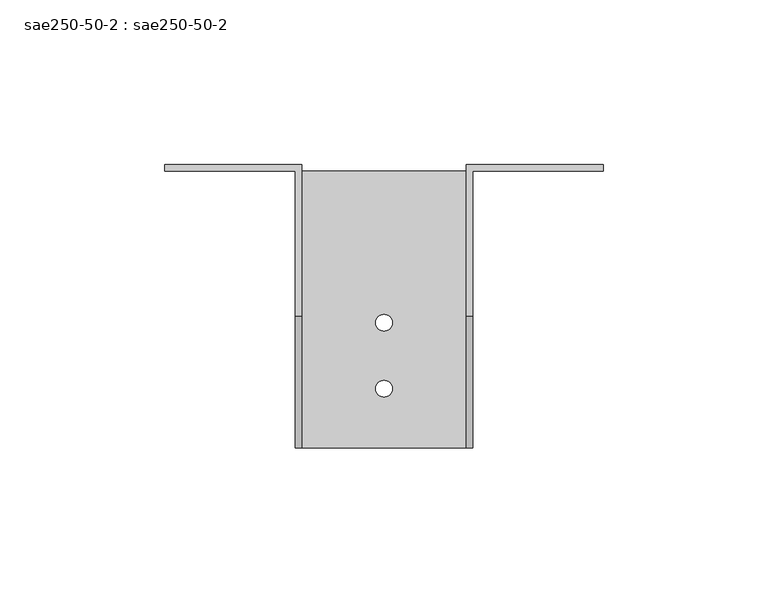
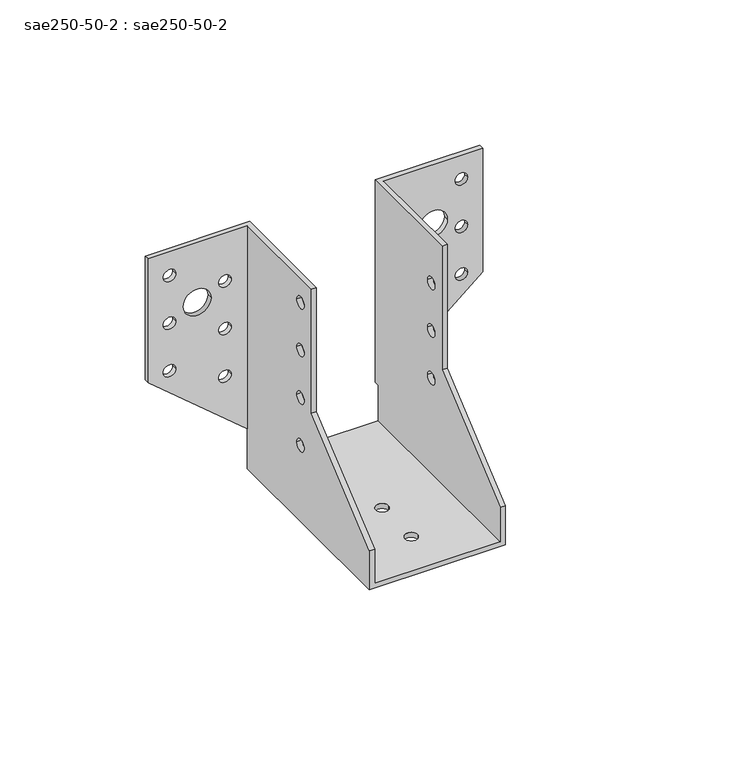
"""IFC4 building model written with IfcOpenShell, lengths in millimetres: fastener geometry, sae250-50-2 : sae250-50-2."""

import ifcopenshell
import ifcopenshell.guid

model = None  # the IFC model being written
_history = None  # IfcOwnerHistory: only IFC2X3 demands one
_inside = {}  # id of a spatial element -> (the spatial element, [elements in it])
_under = {}  # id of a project, library or spatial element -> (it, [spatial elements below it])
_declared = {}  # id of a project -> (the project, [libraries it declares])
_typed = {}  # id of a type object -> (the type object, [elements of that type])
_made_of = {}  # id of a material, layer set ... -> (it, [elements and type objects made of it])


def new_model(schema):
    """Start an empty IFC model of exactly this schema.

    Asked for "IFC4X3", IfcOpenShell would pick the latest addendum, in which some entities
    have other attributes; the version numbers below select the first issue.
    IFC2X3 requires an IfcOwnerHistory on every rooted entity: one is made here for all.
    """
    global model, _history
    if schema == "IFC4X3":
        model = ifcopenshell.file(schema_version=(4, 3, 0, 0))
    else:
        model = ifcopenshell.file(schema=schema)
    _inside.clear()
    _under.clear()
    _declared.clear()
    _typed.clear()
    _made_of.clear()
    _history = None
    if model.schema == "IFC2X3":
        org = make("IfcOrganization", Name="unknown")
        user = make(
            "IfcPersonAndOrganization",
            ThePerson=make("IfcPerson", FamilyName="unknown"),
            TheOrganization=org,
        )
        app = make(
            "IfcApplication",
            ApplicationDeveloper=org,
            Version="unknown",
            ApplicationFullName="unknown",
            ApplicationIdentifier="unknown",
        )
        _history = make(
            "IfcOwnerHistory",
            OwningUser=user,
            OwningApplication=app,
            ChangeAction="ADDED",
            CreationDate=0,
        )
    return model


def make(cls, **values):
    """One entity of the class cls with the attributes given. An attribute that is None is left unset."""
    return model.create_entity(
        cls, **{name: value for name, value in values.items() if value is not None}
    )


def rooted(cls, **values):
    """An entity with a GlobalId (a new one), such as an element, a storey or a relation."""
    return make(cls, GlobalId=ifcopenshell.guid.new(), OwnerHistory=_history, **values)


def si_unit(unit_type, name, prefix=None):
    """IfcSIUnit, for example si_unit("LENGTHUNIT", "METRE", prefix="MILLI")."""
    return make("IfcSIUnit", UnitType=unit_type, Prefix=prefix, Name=name)


def assignment(units):
    """IfcUnitAssignment: the units of a project."""
    return None if units is None else make("IfcUnitAssignment", Units=units)


def point(xyz):
    """IfcCartesianPoint."""
    return None if xyz is None else make("IfcCartesianPoint", Coordinates=xyz)


def direction(xyz):
    """IfcDirection."""
    return None if xyz is None else make("IfcDirection", DirectionRatios=xyz)


def frame(location, z_axis=None, x_axis=None):
    """IfcAxis2Placement3D, a coordinate frame: its origin and axes. An axis left out is left unset."""
    return make(
        "IfcAxis2Placement3D",
        Location=point(location),
        Axis=direction(z_axis),
        RefDirection=direction(x_axis),
    )


def origin():
    """The frame at (0, 0, 0) with its axes left unset."""
    return frame((0.0, 0.0, 0.0))


def place(relative_to, where):
    """IfcLocalPlacement: puts the frame where relative to a parent placement (None: the world)."""
    return make(
        "IfcLocalPlacement", PlacementRelTo=relative_to, RelativePlacement=where
    )


def context(
    kind, dimensions, precision=None, world=None, true_north=None, identifier=None
):
    """IfcGeometricRepresentationContext, for example the 3D "Model" context."""
    return make(
        "IfcGeometricRepresentationContext",
        ContextIdentifier=identifier,
        ContextType=kind,
        CoordinateSpaceDimension=dimensions,
        Precision=precision,
        WorldCoordinateSystem=world,
        TrueNorth=true_north,
    )


def project(units=None, contexts=None):
    """IfcProject with its units and contexts."""
    return rooted(
        "IfcProject",
        Name="project",
        RepresentationContexts=contexts,
        UnitsInContext=assignment(units),
    )


def spatial(cls, under=None, at=None, **own):
    """A site, building, storey or space (cls), placed at a placement, below another one or the project."""
    s = rooted(cls, ObjectPlacement=at, **own)
    if under is not None:
        _under.setdefault(under.id(), (under, []))[1].append(s)
    return s


def polyline(points):
    """IfcPolyline through the points."""
    return make("IfcPolyline", Points=[point(p) for p in points])


def circle_curve(where, radius):
    """IfcCircle in the frame where."""
    return make("IfcCircle", Position=where, Radius=radius)


def shape(context_of_items, identifier, shape_type, items):
    """IfcShapeRepresentation: the items that make up one representation, for example the "Body"."""
    return make(
        "IfcShapeRepresentation",
        ContextOfItems=context_of_items,
        RepresentationIdentifier=identifier,
        RepresentationType=shape_type,
        Items=items,
    )


def source(mapping_origin, context_of_items, identifier, shape_type, items):
    """IfcRepresentationMap: a shape defined once, which mapped items show again and again."""
    return make(
        "IfcRepresentationMap",
        MappingOrigin=mapping_origin,
        MappedRepresentation=shape(context_of_items, identifier, shape_type, items),
    )


def transform(
    local_origin,
    x_axis=None,
    y_axis=None,
    z_axis=None,
    scale=None,
    scale2=None,
    scale3=None,
    uniform=True,
):
    """IfcCartesianTransformationOperator3D, or its non-uniform kind. x_axis, y_axis, z_axis: its Axis1, 2, 3."""
    if uniform:
        return make(
            "IfcCartesianTransformationOperator3D",
            Axis1=direction(x_axis),
            Axis2=direction(y_axis),
            LocalOrigin=point(local_origin),
            Scale=scale,
            Axis3=direction(z_axis),
        )
    return make(
        "IfcCartesianTransformationOperator3DnonUniform",
        Axis1=direction(x_axis),
        Axis2=direction(y_axis),
        LocalOrigin=point(local_origin),
        Scale=scale,
        Axis3=direction(z_axis),
        Scale2=scale2,
        Scale3=scale3,
    )


def mapped(mapping_source, mapping_target):
    """IfcMappedItem: shows the shape of a source again, moved by a transform."""
    return make(
        "IfcMappedItem", MappingSource=mapping_source, MappingTarget=mapping_target
    )


def made_of(thing, what):
    """Note that an element or type object is made of a material, layer set ...; save() writes the relation."""
    if what is not None:
        _made_of.setdefault(what.id(), (what, []))[1].append(thing)
    return thing


def element(
    cls,
    number,
    at=None,
    inside=None,
    cuts=None,
    type_object=None,
    material=None,
    context=None,
    identifier="Body",
    shape_type=None,
    held_by="IfcProductDefinitionShape",
    body=None,
    shapes=None,
    **own,
):
    """One element of the class cls, such as IfcWall. Its Tag is "e" and its number.

    at: its placement. inside: the storey or other place that contains it. cuts: it is an
    opening in that element (IfcRelVoidsElement). A single representation is given by context,
    identifier, shape_type and body (its items); several are given by shapes. held_by: the class
    of the entity that holds the representations. save() writes the other relations.
    """
    e = rooted(cls, Tag="e%d" % number, ObjectPlacement=at, **own)
    if body is not None:
        shapes = [shape(context, identifier, shape_type, body)]
    if shapes is not None:
        e.Representation = make(held_by, Representations=shapes)
    if inside is not None:
        _inside.setdefault(inside.id(), (inside, []))[1].append(e)
    if cuts is not None:
        rooted(
            "IfcRelVoidsElement", RelatingBuildingElement=cuts, RelatedOpeningElement=e
        )
    if type_object is not None:
        _typed.setdefault(type_object.id(), (type_object, []))[1].append(e)
    return made_of(e, material)


def aggregate(whole, parts):
    """IfcRelAggregates: a whole, such as a stair, and the parts it consists of."""
    return rooted("IfcRelAggregates", RelatingObject=whole, RelatedObjects=parts)


def save(model, path):
    """Write the relations noted so far, then the file.

    IfcRelAggregates (storeys below a building ...), IfcRelContainedInSpatialStructure (elements
    in a storey), IfcRelDefinesByType, IfcRelAssociatesMaterial and IfcRelDeclares: one each for
    every whole, place, type object, material and project.
    """
    for whole, parts in _under.values():
        aggregate(whole, parts)
    for where, things in _inside.values():
        rooted(
            "IfcRelContainedInSpatialStructure",
            RelatedElements=things,
            RelatingStructure=where,
        )
    for kind, things in _typed.values():
        rooted("IfcRelDefinesByType", RelatedObjects=things, RelatingType=kind)
    for what, things in _made_of.values():
        rooted("IfcRelAssociatesMaterial", RelatedObjects=things, RelatingMaterial=what)
    for by, libraries in _declared.values():
        rooted("IfcRelDeclares", RelatingContext=by, RelatedDefinitions=libraries)
    model.write(path)


def plane_surface(at):
    """IfcPlane: the flat surface through the origin of the frame at, square to its z axis."""
    return make("IfcPlane", Position=at)


def revolved_surface(curve, axis_point, axis_direction):
    """IfcSurfaceOfRevolution: the curve turned about the line through axis_point along axis_direction."""
    return make(
        "IfcSurfaceOfRevolution",
        SweptCurve=make("IfcArbitraryOpenProfileDef", ProfileType="CURVE", Curve=curve),
        AxisPosition=make("IfcAxis1Placement", Location=point(axis_point), Axis=direction(axis_direction)),
    )


def advanced_brep(points, edges, surfaces, faces):
    """IfcAdvancedBrep: a solid bounded by faces that lie on surfaces and meet in shared edges.

    An edge is (start, end): straight between two places in points (the first is 0);
    or (start, end, curve); or (start, end, curve, False) where it runs against its curve.
    A face is (place in surfaces, loops), or (place, loops, False) where it looks against
    its surface's normal. A loop lists edges by number (the first is 1), with a minus sign
    where the edge is run from its end to its start. The first loop is the outer one.
    """
    corners = [point(p) for p in points]
    vertices = [make("IfcVertexPoint", VertexGeometry=c) for c in corners]
    made = []
    for start, end, *more in edges:
        made.append(
            make(
                "IfcEdgeCurve",
                EdgeStart=vertices[start],
                EdgeEnd=vertices[end],
                EdgeGeometry=more[0] if more else make("IfcPolyline", Points=[corners[start], corners[end]]),
                SameSense=more[1] if len(more) > 1 else True,
            )
        )
    hull = []
    for where, loops, *sense in faces:
        bounds = []
        for j, loop in enumerate(loops):
            ring = [make("IfcOrientedEdge", EdgeElement=made[abs(k) - 1], Orientation=k > 0) for k in loop]
            bounds.append(
                make(
                    "IfcFaceOuterBound" if j == 0 else "IfcFaceBound",
                    Bound=make("IfcEdgeLoop", EdgeList=ring),
                    Orientation=True,
                )
            )
        hull.append(make("IfcAdvancedFace", Bounds=bounds, FaceSurface=surfaces[where], SameSense=sense[0] if sense else True))
    return make("IfcAdvancedBrep", Outer=make("IfcClosedShell", CfsFaces=hull))


def sae250_50_2_sae250_50_2_05dc8403(model_context):
    return source(origin(), model_context, "Body", "AdvancedBrep", [
        advanced_brep(
        [(33.5, -2.0, 80.0), (33.5, 0.0, 80.0), (38.5, 0.0, 80.0), (38.5, -2.0, 80.0), (55.5, -2.0, 90.0), (55.5, 0.0, 90.0), (60.5, 0.0, 90.0), (60.5, -2.0, 90.0), (33.5, -2.0, 60.0), (33.5, 0.0, 60.0), (38.5, 0.0, 60.0), (38.5, -2.0, 60.0), (55.5, -2.0, 70.0), (55.5, 0.0, 70.0), (60.5, 0.0, 70.0), (60.5, -2.0, 70.0), (33.5, -2.0, 40.0), (33.5, 0.0, 40.0), (38.5, 0.0, 40.0), (38.5, -2.0, 40.0), (55.5, -2.0, 50.0), (55.5, 0.0, 50.0), (60.5, 0.0, 50.0), (60.5, -2.0, 50.0), (52.5, 0.0, 75.0), (52.5, -2.0, 75.0), (41.5, -2.0, 75.0), (41.5, 0.0, 75.0), (-33.5, -2.0, 80.0), (-33.5, 0.0, 80.0), (-38.5, 0.0, 80.0), (-38.5, -2.0, 80.0), (-55.5, -2.0, 90.0), (-55.5, 0.0, 90.0), (-60.5, 0.0, 90.0), (-60.5, -2.0, 90.0), (-33.5, -2.0, 60.0), (-33.5, 0.0, 60.0), (-38.5, 0.0, 60.0), (-38.5, -2.0, 60.0), (-55.5, -2.0, 70.0), (-55.5, 0.0, 70.0), (-60.5, 0.0, 70.0), (-60.5, -2.0, 70.0), (-33.5, -2.0, 40.0), (-33.5, 0.0, 40.0), (-38.5, 0.0, 40.0), (-38.5, -2.0, 40.0), (-55.5, -2.0, 50.0), (-55.5, 0.0, 50.0), (-60.5, 0.0, 50.0), (-60.5, -2.0, 50.0), (-52.5, 0.0, 75.0), (-52.5, -2.0, 75.0), (-41.5, -2.0, 75.0), (-41.5, 0.0, 75.0), (25.0, -36.0, 40.0), (27.0, -36.0, 40.0), (27.0, -41.0, 40.0), (25.0, -41.0, 40.0), (25.0, -36.0, 80.0), (27.0, -36.0, 80.0), (27.0, -41.0, 80.0), (25.0, -41.0, 80.0), (25.0, -36.0, 60.0), (27.0, -36.0, 60.0), (27.0, -41.0, 60.0), (25.0, -41.0, 60.0), (-25.0, -41.0, 90.0), (-27.0, -41.0, 90.0), (-27.0, -36.0, 90.0), (-25.0, -36.0, 90.0), (-25.0, -41.0, 70.0), (-27.0, -41.0, 70.0), (-27.0, -36.0, 70.0), (-25.0, -36.0, 70.0), (-25.0, -41.0, 50.0), (-27.0, -41.0, 50.0), (-27.0, -36.0, 50.0), (-25.0, -36.0, 50.0), (-25.0, -41.0, 30.0), (-27.0, -41.0, 30.0), (-27.0, -36.0, 30.0), (-25.0, -36.0, 30.0), (2.5, -68.0, -2.0), (2.5, -68.0, 0.0), (-2.5, -68.0, 0.0), (-2.5, -68.0, -2.0), (2.5, -48.0, -2.0), (2.5, -48.0, 0.0), (-2.5, -48.0, 0.0), (-2.5, -48.0, -2.0), (-25.0, -86.0, 0.0), (-25.0, -2.0, 0.0), (-25.0, -2.0, 14.8555646), (-25.0, 0.0, 14.8555646), (-25.0, 0.0, 100.0), (-25.0, -46.0, 100.0), (-25.0, -46.0, 48.0), (-25.0, -86.0, 14.4360148), (-27.0, -2.0, 14.8555646), (-27.0, -2.0, 100.0), (-66.5, -2.0, 100.0), (-66.5, -2.0, 48.0), (-66.5, 0.0, 100.0), (-66.5, 0.0, 48.0), (-27.0, 0.0, 14.8555646), (-27.0, -46.0, 48.0), (-27.0, -86.0, 14.4360148), (-27.0, -46.0, 100.0), (-27.0, -2.0, -2.0), (-27.0, -86.0, -2.0), (27.0, -2.0, 100.0), (27.0, -2.0, 14.8555646), (66.5, -2.0, 48.0), (66.5, -2.0, 100.0), (66.5, 0.0, 48.0), (66.5, 0.0, 100.0), (27.0, 0.0, 14.8555646), (25.0, 0.0, 14.8555646), (25.0, -2.0, 14.8555646), (25.0, 0.0, 100.0), (25.0, -2.0, 0.0), (25.0, -86.0, 0.0), (25.0, -86.0, 14.4360148), (25.0, -46.0, 48.0), (25.0, -46.0, 100.0), (27.0, -86.0, 14.4360148), (27.0, -46.0, 48.0), (27.0, -46.0, 100.0), (27.0, -2.0, -2.0), (27.0, -86.0, -2.0)],
        [
            (0, 1),
            (1, 2, circle_curve(frame((36.0, 0.0, 80.0), z_axis=(0.0, 1.0, 0.0), x_axis=(-1.0, 0.0, 0.0)), 2.5)),
            (2, 3),
            (3, 0, circle_curve(frame((36.0, -2.0, 80.0), z_axis=(0.0, -1.0, 0.0), x_axis=(-1.0, 0.0, 0.0)), 2.5)),
            (4, 5),
            (5, 6, circle_curve(frame((58.0, 0.0, 90.0), z_axis=(0.0, 1.0, 0.0), x_axis=(-1.0, 0.0, 0.0)), 2.5)),
            (6, 7),
            (7, 4, circle_curve(frame((58.0, -2.0, 90.0), z_axis=(0.0, -1.0, 0.0), x_axis=(-1.0, 0.0, 0.0)), 2.5)),
            (8, 9),
            (9, 10, circle_curve(frame((36.0, 0.0, 60.0), z_axis=(0.0, 1.0, 0.0), x_axis=(-1.0, 0.0, 0.0)), 2.5)),
            (10, 11),
            (11, 8, circle_curve(frame((36.0, -2.0, 60.0), z_axis=(0.0, -1.0, 0.0), x_axis=(-1.0, 0.0, 0.0)), 2.5)),
            (12, 13),
            (13, 14, circle_curve(frame((58.0, 0.0, 70.0), z_axis=(0.0, 1.0, 0.0), x_axis=(-1.0, 0.0, 0.0)), 2.5)),
            (14, 15),
            (15, 12, circle_curve(frame((58.0, -2.0, 70.0), z_axis=(0.0, -1.0, 0.0), x_axis=(-1.0, 0.0, 0.0)), 2.5)),
            (16, 17),
            (17, 18, circle_curve(frame((36.0, 0.0, 40.0), z_axis=(0.0, 1.0, 0.0), x_axis=(-1.0, 0.0, 0.0)), 2.5)),
            (18, 19),
            (19, 16, circle_curve(frame((36.0, -2.0, 40.0), z_axis=(0.0, -1.0, 0.0), x_axis=(-1.0, 0.0, 0.0)), 2.5)),
            (20, 21),
            (21, 22, circle_curve(frame((58.0, 0.0, 50.0), z_axis=(0.0, 1.0, 0.0), x_axis=(-1.0, 0.0, 0.0)), 2.5)),
            (22, 23),
            (23, 20, circle_curve(frame((58.0, -2.0, 50.0), z_axis=(0.0, -1.0, 0.0), x_axis=(-1.0, 0.0, 0.0)), 2.5)),
            (24, 25),
            (25, 26, circle_curve(frame((47.0, -2.0, 75.0), z_axis=(0.0, -1.0, 0.0), x_axis=(1.0, 0.0, 0.0)), 5.5)),
            (26, 27),
            (27, 24, circle_curve(frame((47.0, 0.0, 75.0), z_axis=(0.0, 1.0, 0.0), x_axis=(1.0, 0.0, 0.0)), 5.5)),
            (28, 29),
            (29, 30, circle_curve(frame((-36.0, 0.0, 80.0), z_axis=(0.0, 1.0, 0.0), x_axis=(1.0, 0.0, 0.0)), 2.5)),
            (30, 31),
            (31, 28, circle_curve(frame((-36.0, -2.0, 80.0), z_axis=(0.0, -1.0, 0.0), x_axis=(1.0, 0.0, 0.0)), 2.5)),
            (32, 33),
            (33, 34, circle_curve(frame((-58.0, 0.0, 90.0), z_axis=(0.0, 1.0, 0.0), x_axis=(1.0, 0.0, 0.0)), 2.5)),
            (34, 35),
            (35, 32, circle_curve(frame((-58.0, -2.0, 90.0), z_axis=(0.0, -1.0, 0.0), x_axis=(1.0, 0.0, 0.0)), 2.5)),
            (36, 37),
            (37, 38, circle_curve(frame((-36.0, 0.0, 60.0), z_axis=(0.0, 1.0, 0.0), x_axis=(1.0, 0.0, 0.0)), 2.5)),
            (38, 39),
            (39, 36, circle_curve(frame((-36.0, -2.0, 60.0), z_axis=(0.0, -1.0, 0.0), x_axis=(1.0, 0.0, 0.0)), 2.5)),
            (40, 41),
            (41, 42, circle_curve(frame((-58.0, 0.0, 70.0), z_axis=(0.0, 1.0, 0.0), x_axis=(1.0, 0.0, 0.0)), 2.5)),
            (42, 43),
            (43, 40, circle_curve(frame((-58.0, -2.0, 70.0), z_axis=(0.0, -1.0, 0.0), x_axis=(1.0, 0.0, 0.0)), 2.5)),
            (44, 45),
            (45, 46, circle_curve(frame((-36.0, 0.0, 40.0), z_axis=(0.0, 1.0, 0.0), x_axis=(1.0, 0.0, 0.0)), 2.5)),
            (46, 47),
            (47, 44, circle_curve(frame((-36.0, -2.0, 40.0), z_axis=(0.0, -1.0, 0.0), x_axis=(1.0, 0.0, 0.0)), 2.5)),
            (48, 49),
            (49, 50, circle_curve(frame((-58.0, 0.0, 50.0), z_axis=(0.0, 1.0, 0.0), x_axis=(1.0, 0.0, 0.0)), 2.5)),
            (50, 51),
            (51, 48, circle_curve(frame((-58.0, -2.0, 50.0), z_axis=(0.0, -1.0, 0.0), x_axis=(1.0, 0.0, 0.0)), 2.5)),
            (52, 53),
            (53, 54, circle_curve(frame((-47.0, -2.0, 75.0), z_axis=(0.0, -1.0, 0.0), x_axis=(-1.0, 0.0, 0.0)), 5.5)),
            (54, 55),
            (55, 52, circle_curve(frame((-47.0, 0.0, 75.0), z_axis=(0.0, 1.0, 0.0), x_axis=(-1.0, 0.0, 0.0)), 5.5)),
            (56, 57),
            (57, 58, circle_curve(frame((27.0, -38.5, 40.0), z_axis=(1.0, 0.0, 0.0), x_axis=(0.0, 1.0, 0.0)), 2.5)),
            (58, 59),
            (59, 56, circle_curve(frame((25.0, -38.5, 40.0), z_axis=(-1.0, 0.0, 0.0), x_axis=(0.0, 1.0, 0.0)), 2.5)),
            (60, 61),
            (61, 62, circle_curve(frame((27.0, -38.5, 80.0), z_axis=(1.0, 0.0, 0.0), x_axis=(0.0, 1.0, 0.0)), 2.5)),
            (62, 63),
            (63, 60, circle_curve(frame((25.0, -38.5, 80.0), z_axis=(-1.0, 0.0, 0.0), x_axis=(0.0, 1.0, 0.0)), 2.5)),
            (64, 65),
            (65, 66, circle_curve(frame((27.0, -38.5, 60.0), z_axis=(1.0, 0.0, 0.0), x_axis=(0.0, 1.0, 0.0)), 2.5)),
            (66, 67),
            (67, 64, circle_curve(frame((25.0, -38.5, 60.0), z_axis=(-1.0, 0.0, 0.0), x_axis=(0.0, 1.0, 0.0)), 2.5)),
            (68, 69),
            (69, 70, circle_curve(frame((-27.0, -38.5, 90.0), z_axis=(-1.0, 0.0, 0.0), x_axis=(0.0, -1.0, 0.0)), 2.5)),
            (70, 71),
            (71, 68, circle_curve(frame((-25.0, -38.5, 90.0), z_axis=(1.0, 0.0, 0.0), x_axis=(0.0, -1.0, 0.0)), 2.5)),
            (72, 73),
            (73, 74, circle_curve(frame((-27.0, -38.5, 70.0), z_axis=(-1.0, 0.0, 0.0), x_axis=(0.0, -1.0, 0.0)), 2.5)),
            (74, 75),
            (75, 72, circle_curve(frame((-25.0, -38.5, 70.0), z_axis=(1.0, 0.0, 0.0), x_axis=(0.0, -1.0, 0.0)), 2.5)),
            (76, 77),
            (77, 78, circle_curve(frame((-27.0, -38.5, 50.0), z_axis=(-1.0, 0.0, 0.0), x_axis=(0.0, -1.0, 0.0)), 2.5)),
            (78, 79),
            (79, 76, circle_curve(frame((-25.0, -38.5, 50.0), z_axis=(1.0, 0.0, 0.0), x_axis=(0.0, -1.0, 0.0)), 2.5)),
            (80, 81),
            (81, 82, circle_curve(frame((-27.0, -38.5, 30.0), z_axis=(-1.0, 0.0, 0.0), x_axis=(0.0, -1.0, 0.0)), 2.5)),
            (82, 83),
            (83, 80, circle_curve(frame((-25.0, -38.5, 30.0), z_axis=(1.0, 0.0, 0.0), x_axis=(0.0, -1.0, 0.0)), 2.5)),
            (84, 85),
            (85, 86, circle_curve(frame((0.0, -68.0, 0.0), z_axis=(0.0, 0.0, 1.0), x_axis=(1.0, 0.0, 0.0)), 2.5)),
            (86, 87),
            (87, 84, circle_curve(frame((0.0, -68.0, -2.0), z_axis=(0.0, 0.0, -1.0), x_axis=(1.0, 0.0, 0.0)), 2.5)),
            (88, 89),
            (89, 90, circle_curve(frame((0.0, -48.0, 0.0), z_axis=(0.0, 0.0, 1.0), x_axis=(1.0, 0.0, 0.0)), 2.5)),
            (90, 91),
            (91, 88, circle_curve(frame((0.0, -48.0, -2.0), z_axis=(0.0, 0.0, -1.0), x_axis=(1.0, 0.0, 0.0)), 2.5)),
            (88, 91, circle_curve(frame((0.0, -48.0, -2.0), z_axis=(0.0, 0.0, -1.0), x_axis=(1.0, 0.0, 0.0)), 2.5)),
            (90, 89, circle_curve(frame((0.0, -48.0, 0.0), z_axis=(0.0, 0.0, 1.0), x_axis=(1.0, 0.0, 0.0)), 2.5)),
            (84, 87, circle_curve(frame((0.0, -68.0, -2.0), z_axis=(0.0, 0.0, -1.0), x_axis=(1.0, 0.0, 0.0)), 2.5)),
            (86, 85, circle_curve(frame((0.0, -68.0, 0.0), z_axis=(0.0, 0.0, 1.0), x_axis=(1.0, 0.0, 0.0)), 2.5)),
            (80, 83, circle_curve(frame((-25.0, -38.5, 30.0), z_axis=(1.0, 0.0, 0.0), x_axis=(0.0, -1.0, 0.0)), 2.5)),
            (82, 81, circle_curve(frame((-27.0, -38.5, 30.0), z_axis=(-1.0, 0.0, 0.0), x_axis=(0.0, -1.0, 0.0)), 2.5)),
            (76, 79, circle_curve(frame((-25.0, -38.5, 50.0), z_axis=(1.0, 0.0, 0.0), x_axis=(0.0, -1.0, 0.0)), 2.5)),
            (78, 77, circle_curve(frame((-27.0, -38.5, 50.0), z_axis=(-1.0, 0.0, 0.0), x_axis=(0.0, -1.0, 0.0)), 2.5)),
            (72, 75, circle_curve(frame((-25.0, -38.5, 70.0), z_axis=(1.0, 0.0, 0.0), x_axis=(0.0, -1.0, 0.0)), 2.5)),
            (74, 73, circle_curve(frame((-27.0, -38.5, 70.0), z_axis=(-1.0, 0.0, 0.0), x_axis=(0.0, -1.0, 0.0)), 2.5)),
            (68, 71, circle_curve(frame((-25.0, -38.5, 90.0), z_axis=(1.0, 0.0, 0.0), x_axis=(0.0, -1.0, 0.0)), 2.5)),
            (70, 69, circle_curve(frame((-27.0, -38.5, 90.0), z_axis=(-1.0, 0.0, 0.0), x_axis=(0.0, -1.0, 0.0)), 2.5)),
            (64, 67, circle_curve(frame((25.0, -38.5, 60.0), z_axis=(-1.0, 0.0, 0.0), x_axis=(0.0, 1.0, 0.0)), 2.5)),
            (66, 65, circle_curve(frame((27.0, -38.5, 60.0), z_axis=(1.0, 0.0, 0.0), x_axis=(0.0, 1.0, 0.0)), 2.5)),
            (60, 63, circle_curve(frame((25.0, -38.5, 80.0), z_axis=(-1.0, 0.0, 0.0), x_axis=(0.0, 1.0, 0.0)), 2.5)),
            (62, 61, circle_curve(frame((27.0, -38.5, 80.0), z_axis=(1.0, 0.0, 0.0), x_axis=(0.0, 1.0, 0.0)), 2.5)),
            (56, 59, circle_curve(frame((25.0, -38.5, 40.0), z_axis=(-1.0, 0.0, 0.0), x_axis=(0.0, 1.0, 0.0)), 2.5)),
            (58, 57, circle_curve(frame((27.0, -38.5, 40.0), z_axis=(1.0, 0.0, 0.0), x_axis=(0.0, 1.0, 0.0)), 2.5)),
            (52, 55, circle_curve(frame((-47.0, 0.0, 75.0), z_axis=(0.0, 1.0, 0.0), x_axis=(-1.0, 0.0, 0.0)), 5.5)),
            (54, 53, circle_curve(frame((-47.0, -2.0, 75.0), z_axis=(0.0, -1.0, 0.0), x_axis=(-1.0, 0.0, 0.0)), 5.5)),
            (48, 51, circle_curve(frame((-58.0, -2.0, 50.0), z_axis=(0.0, -1.0, 0.0), x_axis=(1.0, 0.0, 0.0)), 2.5)),
            (50, 49, circle_curve(frame((-58.0, 0.0, 50.0), z_axis=(0.0, 1.0, 0.0), x_axis=(1.0, 0.0, 0.0)), 2.5)),
            (44, 47, circle_curve(frame((-36.0, -2.0, 40.0), z_axis=(0.0, -1.0, 0.0), x_axis=(1.0, 0.0, 0.0)), 2.5)),
            (46, 45, circle_curve(frame((-36.0, 0.0, 40.0), z_axis=(0.0, 1.0, 0.0), x_axis=(1.0, 0.0, 0.0)), 2.5)),
            (40, 43, circle_curve(frame((-58.0, -2.0, 70.0), z_axis=(0.0, -1.0, 0.0), x_axis=(1.0, 0.0, 0.0)), 2.5)),
            (42, 41, circle_curve(frame((-58.0, 0.0, 70.0), z_axis=(0.0, 1.0, 0.0), x_axis=(1.0, 0.0, 0.0)), 2.5)),
            (36, 39, circle_curve(frame((-36.0, -2.0, 60.0), z_axis=(0.0, -1.0, 0.0), x_axis=(1.0, 0.0, 0.0)), 2.5)),
            (38, 37, circle_curve(frame((-36.0, 0.0, 60.0), z_axis=(0.0, 1.0, 0.0), x_axis=(1.0, 0.0, 0.0)), 2.5)),
            (32, 35, circle_curve(frame((-58.0, -2.0, 90.0), z_axis=(0.0, -1.0, 0.0), x_axis=(1.0, 0.0, 0.0)), 2.5)),
            (34, 33, circle_curve(frame((-58.0, 0.0, 90.0), z_axis=(0.0, 1.0, 0.0), x_axis=(1.0, 0.0, 0.0)), 2.5)),
            (28, 31, circle_curve(frame((-36.0, -2.0, 80.0), z_axis=(0.0, -1.0, 0.0), x_axis=(1.0, 0.0, 0.0)), 2.5)),
            (30, 29, circle_curve(frame((-36.0, 0.0, 80.0), z_axis=(0.0, 1.0, 0.0), x_axis=(1.0, 0.0, 0.0)), 2.5)),
            (92, 93),
            (93, 94),
            (94, 95),
            (95, 96),
            (96, 97),
            (97, 98),
            (98, 99),
            (99, 92),
            (100, 101),
            (101, 102),
            (102, 103),
            (103, 100),
            (104, 105),
            (105, 103),
            (102, 104),
            (105, 106),
            (106, 100),
            (106, 95),
            (94, 100),
            (104, 96),
            (98, 107),
            (107, 108),
            (108, 99),
            (97, 109),
            (109, 107),
            (101, 109),
            (100, 110),
            (110, 111),
            (111, 108),
            (24, 27, circle_curve(frame((47.0, 0.0, 75.0), z_axis=(0.0, 1.0, 0.0), x_axis=(1.0, 0.0, 0.0)), 5.5)),
            (26, 25, circle_curve(frame((47.0, -2.0, 75.0), z_axis=(0.0, -1.0, 0.0), x_axis=(1.0, 0.0, 0.0)), 5.5)),
            (20, 23, circle_curve(frame((58.0, -2.0, 50.0), z_axis=(0.0, -1.0, 0.0), x_axis=(-1.0, 0.0, 0.0)), 2.5)),
            (22, 21, circle_curve(frame((58.0, 0.0, 50.0), z_axis=(0.0, 1.0, 0.0), x_axis=(-1.0, 0.0, 0.0)), 2.5)),
            (16, 19, circle_curve(frame((36.0, -2.0, 40.0), z_axis=(0.0, -1.0, 0.0), x_axis=(-1.0, 0.0, 0.0)), 2.5)),
            (18, 17, circle_curve(frame((36.0, 0.0, 40.0), z_axis=(0.0, 1.0, 0.0), x_axis=(-1.0, 0.0, 0.0)), 2.5)),
            (12, 15, circle_curve(frame((58.0, -2.0, 70.0), z_axis=(0.0, -1.0, 0.0), x_axis=(-1.0, 0.0, 0.0)), 2.5)),
            (14, 13, circle_curve(frame((58.0, 0.0, 70.0), z_axis=(0.0, 1.0, 0.0), x_axis=(-1.0, 0.0, 0.0)), 2.5)),
            (8, 11, circle_curve(frame((36.0, -2.0, 60.0), z_axis=(0.0, -1.0, 0.0), x_axis=(-1.0, 0.0, 0.0)), 2.5)),
            (10, 9, circle_curve(frame((36.0, 0.0, 60.0), z_axis=(0.0, 1.0, 0.0), x_axis=(-1.0, 0.0, 0.0)), 2.5)),
            (4, 7, circle_curve(frame((58.0, -2.0, 90.0), z_axis=(0.0, -1.0, 0.0), x_axis=(-1.0, 0.0, 0.0)), 2.5)),
            (6, 5, circle_curve(frame((58.0, 0.0, 90.0), z_axis=(0.0, 1.0, 0.0), x_axis=(-1.0, 0.0, 0.0)), 2.5)),
            (0, 3, circle_curve(frame((36.0, -2.0, 80.0), z_axis=(0.0, -1.0, 0.0), x_axis=(-1.0, 0.0, 0.0)), 2.5)),
            (2, 1, circle_curve(frame((36.0, 0.0, 80.0), z_axis=(0.0, 1.0, 0.0), x_axis=(-1.0, 0.0, 0.0)), 2.5)),
            (112, 113),
            (113, 114),
            (114, 115),
            (115, 112),
            (116, 117),
            (117, 115),
            (114, 116),
            (118, 116),
            (113, 118),
            (119, 118),
            (113, 120),
            (120, 119),
            (121, 117),
            (119, 121),
            (122, 123),
            (123, 124),
            (124, 125),
            (125, 126),
            (126, 121),
            (120, 122),
            (124, 127),
            (127, 128),
            (128, 125),
            (128, 129),
            (129, 126),
            (129, 112),
            (130, 113),
            (127, 131),
            (131, 130),
            (123, 92),
            (111, 131),
            (130, 110),
            (93, 122),
        ],
        [
            revolved_surface(polyline([(33.5, 0.0, 80.0), (33.5, -2.0, 80.0)]), (36.0, -1.0, 80.0), (0.0, 1.0, 0.0)),
            revolved_surface(polyline([(55.5, 0.0, 90.0), (55.5, -2.0, 90.0)]), (58.0, -1.0, 90.0), (0.0, 1.0, 0.0)),
            revolved_surface(polyline([(33.5, 0.0, 60.0), (33.5, -2.0, 60.0)]), (36.0, -1.0, 60.0), (0.0, 1.0, 0.0)),
            revolved_surface(polyline([(55.5, 0.0, 70.0), (55.5, -2.0, 70.0)]), (58.0, -1.0, 70.0), (0.0, 1.0, 0.0)),
            revolved_surface(polyline([(33.5, 0.0, 40.0), (33.5, -2.0, 40.0)]), (36.0, -1.0, 40.0), (0.0, 1.0, 0.0)),
            revolved_surface(polyline([(55.5, 0.0, 50.0), (55.5, -2.0, 50.0)]), (58.0, -1.0, 50.0), (0.0, 1.0, 0.0)),
            revolved_surface(polyline([(52.5, -2.0, 75.0), (52.5, 0.0, 75.0)]), (47.0, -1.0, 75.0), (0.0, -1.0, 0.0)),
            revolved_surface(polyline([(-33.5, -2.0, 80.0), (-33.5, 0.0, 80.0)]), (-36.0, -1.0, 80.0), (0.0, -1.0, 0.0)),
            revolved_surface(polyline([(-55.5, -2.0, 90.0), (-55.5, 0.0, 90.0)]), (-58.0, -1.0, 90.0), (0.0, -1.0, 0.0)),
            revolved_surface(polyline([(-33.5, -2.0, 60.0), (-33.5, 0.0, 60.0)]), (-36.0, -1.0, 60.0), (0.0, -1.0, 0.0)),
            revolved_surface(polyline([(-55.5, -2.0, 70.0), (-55.5, 0.0, 70.0)]), (-58.0, -1.0, 70.0), (0.0, -1.0, 0.0)),
            revolved_surface(polyline([(-33.5, -2.0, 40.0), (-33.5, 0.0, 40.0)]), (-36.0, -1.0, 40.0), (0.0, -1.0, 0.0)),
            revolved_surface(polyline([(-55.5, -2.0, 50.0), (-55.5, 0.0, 50.0)]), (-58.0, -1.0, 50.0), (0.0, -1.0, 0.0)),
            revolved_surface(polyline([(-52.5, 0.0, 75.0), (-52.5, -2.0, 75.0)]), (-47.0, -1.0, 75.0), (0.0, 1.0, 0.0)),
            revolved_surface(polyline([(27.0, -36.0, 40.0), (25.0, -36.0, 40.0)]), (26.0, -38.5, 40.0), (1.0, 0.0, 0.0)),
            revolved_surface(polyline([(27.0, -36.0, 80.0), (25.0, -36.0, 80.0)]), (26.0, -38.5, 80.0), (1.0, 0.0, 0.0)),
            revolved_surface(polyline([(27.0, -36.0, 60.0), (25.0, -36.0, 60.0)]), (26.0, -38.5, 60.0), (1.0, 0.0, 0.0)),
            revolved_surface(polyline([(-27.0, -41.0, 90.0), (-25.0, -41.0, 90.0)]), (-26.0, -38.5, 90.0), (-1.0, 0.0, 0.0)),
            revolved_surface(polyline([(-27.0, -41.0, 70.0), (-25.0, -41.0, 70.0)]), (-26.0, -38.5, 70.0), (-1.0, 0.0, 0.0)),
            revolved_surface(polyline([(-27.0, -41.0, 50.0), (-25.0, -41.0, 50.0)]), (-26.0, -38.5, 50.0), (-1.0, 0.0, 0.0)),
            revolved_surface(polyline([(-27.0, -41.0, 30.0), (-25.0, -41.0, 30.0)]), (-26.0, -38.5, 30.0), (-1.0, 0.0, 0.0)),
            revolved_surface(polyline([(2.5, -68.0, 0.0), (2.5, -68.0, -2.0)]), (0.0, -68.0, -1.0), (0.0, 0.0, 1.0)),
            revolved_surface(polyline([(2.5, -48.0, 0.0), (2.5, -48.0, -2.0)]), (0.0, -48.0, -1.0), (0.0, 0.0, 1.0)),
            plane_surface(frame((-25.0, -34.8144652, 42.2363908), z_axis=(1.0, 0.0, 0.0), x_axis=(0.0, 0.0, -1.0))),
            plane_surface(frame((-42.8401804, -2.0, 62.6072098), z_axis=(0.0, -1.0, 0.0), x_axis=(0.0, 0.0, -1.0))),
            plane_surface(frame((-66.5, 0.0, 48.0), z_axis=(-1.0, 0.0, 0.0), x_axis=(0.0, 0.0, 1.0))),
            plane_surface(frame((-27.0, 0.0, 14.8555646), z_axis=(-0.6427876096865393, 0.0, -0.7660444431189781), x_axis=(-0.7660444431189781, 0.0, 0.6427876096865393))),
            plane_surface(frame((-25.0, 0.0, 14.8555646), z_axis=(0.0, 0.0, -1.0), x_axis=(-1.0, 0.0, 0.0))),
            plane_surface(frame((-42.8401804, 0.0, 62.6072098), z_axis=(0.0, 1.0, 0.0), x_axis=(0.0, 0.0, -1.0))),
            plane_surface(frame((-25.0, -46.0, 48.0), z_axis=(0.0, -0.6427876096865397, 0.7660444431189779), x_axis=(0.0, -0.7660444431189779, -0.6427876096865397))),
            plane_surface(frame((-25.0, -46.0, 100.0), z_axis=(0.0, -1.0, 0.0), x_axis=(0.0, 0.0, -1.0))),
            plane_surface(frame((-25.0, -2.0, 100.0), z_axis=(0.0, 0.0, 1.0), x_axis=(0.0, -1.0, 0.0))),
            plane_surface(frame((-27.0, -34.8144652, 42.2363908), z_axis=(-1.0, 0.0, 0.0), x_axis=(0.0, 0.0, -1.0))),
            plane_surface(frame((42.8401804, -2.0, 62.6072098), z_axis=(0.0, -1.0, 0.0), x_axis=(0.0, 0.0, -1.0))),
            plane_surface(frame((66.5, 0.0, 48.0), z_axis=(1.0, 0.0, 0.0), x_axis=(0.0, 0.0, 1.0))),
            plane_surface(frame((27.0, 0.0, 14.8555646), z_axis=(0.6427876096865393, 0.0, -0.7660444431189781), x_axis=(0.7660444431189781, 0.0, 0.6427876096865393))),
            plane_surface(frame((25.0, 0.0, 14.8555646), z_axis=(0.0, 0.0, -1.0), x_axis=(1.0, 0.0, 0.0))),
            plane_surface(frame((42.8401804, 0.0, 62.6072098), z_axis=(0.0, 1.0, 0.0), x_axis=(0.0, 0.0, -1.0))),
            plane_surface(frame((25.0, -34.8144652, 42.2363908), z_axis=(-1.0, 0.0, 0.0), x_axis=(0.0, 0.0, -1.0))),
            plane_surface(frame((25.0, -46.0, 48.0), z_axis=(0.0, -0.6427876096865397, 0.7660444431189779), x_axis=(0.0, -0.7660444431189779, -0.6427876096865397))),
            plane_surface(frame((25.0, -46.0, 100.0), z_axis=(0.0, -1.0, 0.0), x_axis=(0.0, 0.0, -1.0))),
            plane_surface(frame((25.0, -2.0, 100.0), z_axis=(0.0, 0.0, 1.0), x_axis=(0.0, -1.0, 0.0))),
            plane_surface(frame((27.0, -34.8144652, 42.2363908), z_axis=(1.0, 0.0, 0.0), x_axis=(0.0, 0.0, -1.0))),
            plane_surface(frame((25.0, -86.0, 0.0), z_axis=(0.0, -1.0, 0.0), x_axis=(-1.0, 0.0, 0.0))),
            plane_surface(frame((-25.0, -2.0, 0.0), z_axis=(0.0, 1.0, 0.0), x_axis=(1.0, 0.0, 0.0))),
            plane_surface(frame((0.0, -44.0, -2.0), z_axis=(0.0, 0.0, -1.0), x_axis=(1.0, 0.0, 0.0))),
            plane_surface(frame((0.0, -44.0, 0.0), z_axis=(0.0, 0.0, 1.0), x_axis=(1.0, 0.0, 0.0))),
        ],
        [
            (0, [[1, 2, 3, 4]]),
            (1, [[5, 6, 7, 8]]),
            (2, [[9, 10, 11, 12]]),
            (3, [[13, 14, 15, 16]]),
            (4, [[17, 18, 19, 20]]),
            (5, [[21, 22, 23, 24]]),
            (6, [[25, 26, 27, 28]]),
            (7, [[29, 30, 31, 32]]),
            (8, [[33, 34, 35, 36]]),
            (9, [[37, 38, 39, 40]]),
            (10, [[41, 42, 43, 44]]),
            (11, [[45, 46, 47, 48]]),
            (12, [[49, 50, 51, 52]]),
            (13, [[53, 54, 55, 56]]),
            (14, [[57, 58, 59, 60]]),
            (15, [[61, 62, 63, 64]]),
            (16, [[65, 66, 67, 68]]),
            (17, [[69, 70, 71, 72]]),
            (18, [[73, 74, 75, 76]]),
            (19, [[77, 78, 79, 80]]),
            (20, [[81, 82, 83, 84]]),
            (21, [[85, 86, 87, 88]]),
            (22, [[89, 90, 91, 92]]),
            (22, [[-89, 93, -91, 94]]),
            (21, [[-85, 95, -87, 96]]),
            (20, [[-81, 97, -83, 98]]),
            (19, [[-77, 99, -79, 100]]),
            (18, [[-73, 101, -75, 102]]),
            (17, [[-69, 103, -71, 104]]),
            (16, [[-65, 105, -67, 106]]),
            (15, [[-61, 107, -63, 108]]),
            (14, [[-57, 109, -59, 110]]),
            (13, [[-53, 111, -55, 112]]),
            (12, [[-49, 113, -51, 114]]),
            (11, [[-45, 115, -47, 116]]),
            (10, [[-41, 117, -43, 118]]),
            (9, [[-37, 119, -39, 120]]),
            (8, [[-33, 121, -35, 122]]),
            (7, [[-29, 123, -31, 124]]),
            (23, [[125, 126, 127, 128, 129, 130, 131, 132], [-72, -103], [-76, -101], [-80, -99], [-84, -97]]),
            (24, [[133, 134, 135, 136], [-32, -123], [-36, -121], [-40, -119], [-44, -117], [-48, -115], [-52, -113], [-112, -54]]),
            (25, [[137, 138, -135, 139]]),
            (26, [[140, 141, -136, -138]]),
            (27, [[142, -127, 143, -141]]),
            (28, [[144, -128, -142, -140, -137], [-56, -111], [-114, -50], [-116, -46], [-118, -42], [-120, -38], [-122, -34], [-124, -30]]),
            (29, [[-131, 145, 146, 147]]),
            (30, [[-130, 148, 149, -145]]),
            (31, [[-129, -144, -139, -134, 150, -148]]),
            (32, [[151, 152, 153, -146, -149, -150, -133], [-98, -82], [-100, -78], [-102, -74], [-104, -70]]),
            (6, [[-25, 154, -27, 155]]),
            (5, [[-21, 156, -23, 157]]),
            (4, [[-17, 158, -19, 159]]),
            (3, [[-13, 160, -15, 161]]),
            (2, [[-9, 162, -11, 163]]),
            (1, [[-5, 164, -7, 165]]),
            (0, [[-1, 166, -3, 167]]),
            (33, [[168, 169, 170, 171], [-4, -166], [-8, -164], [-12, -162], [-16, -160], [-20, -158], [-24, -156], [-155, -26]]),
            (34, [[172, 173, -170, 174]]),
            (35, [[175, -174, -169, 176]]),
            (36, [[177, -176, 178, 179]]),
            (37, [[180, -172, -175, -177, 181], [-28, -154], [-157, -22], [-159, -18], [-161, -14], [-163, -10], [-165, -6], [-167, -2]]),
            (38, [[182, 183, 184, 185, 186, -181, -179, 187], [-60, -109], [-64, -107], [-68, -105]]),
            (39, [[-184, 188, 189, 190]]),
            (40, [[-185, -190, 191, 192]]),
            (41, [[-186, -192, 193, -171, -173, -180]]),
            (42, [[194, -168, -193, -191, -189, 195, 196], [-106, -66], [-108, -62], [-110, -58]]),
            (43, [[197, -132, -147, -153, 198, -195, -188, -183]]),
            (44, [[-178, -194, 199, -151, -143, -126, 200, -187]]),
            (45, [[-199, -196, -198, -152], [-88, -95], [-92, -93]]),
            (46, [[-200, -125, -197, -182], [-94, -90], [-96, -86]]),
        ],
    ),
    ])


if __name__ == "__main__":
    model = new_model("IFC4")
    model_context = context("Model", 3, world=origin())
    ifc_project = project(units=[si_unit("LENGTHUNIT", "METRE", prefix="MILLI")], contexts=[model_context])
    site = spatial("IfcSite", under=ifc_project)
    building = spatial("IfcBuilding", under=site)
    placement = place(None, origin())
    sae250_50_2_sae250_50_2_shape = sae250_50_2_sae250_50_2_05dc8403(model_context)
    element("IfcFastener", 1, ObjectType="sae250-50-2 : sae250-50-2", at=placement, inside=building, context=model_context, shape_type="MappedRepresentation", body=[
        mapped(sae250_50_2_sae250_50_2_shape, transform((0.0, 0.0, 0.0), x_axis=(1.0, 0.0, 0.0), y_axis=(0.0, 1.0, 0.0), z_axis=(0.0, 0.0, 1.0))),
    ])
    save(model, "model.ifc")
